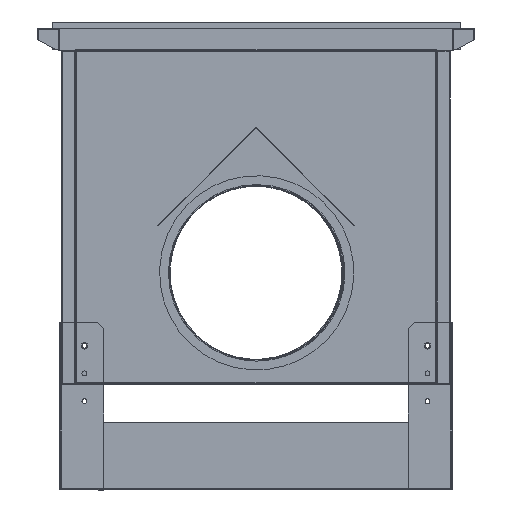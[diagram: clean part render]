
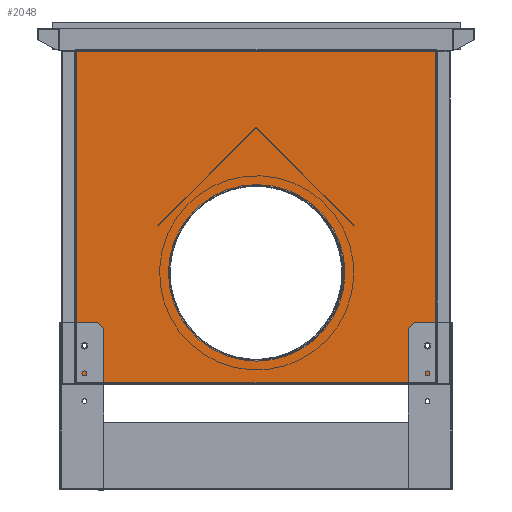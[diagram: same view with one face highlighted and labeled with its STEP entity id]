
A CAD part, left-side view. The second image highlights one B-rep face of the part: STEP entity #2048.
In plain terms, the highlighted planar face has unit normal (-1, 0, 0) as drawn and (0, 1, 0) by its records, which use the part's own axes.
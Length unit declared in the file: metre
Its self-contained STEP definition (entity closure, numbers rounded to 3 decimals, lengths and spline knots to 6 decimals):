
#2048=ADVANCED_FACE('0:205',(#4277,#4278,#4279,#4280),#4281,.T.);
#4277=FACE_BOUND('',#7263,.T.);
#4278=FACE_BOUND('',#7264,.T.);
#4279=FACE_BOUND('',#7265,.T.);
#4280=FACE_OUTER_BOUND('',#7266,.T.);
#4281=PLANE('',#7267);
#7263=EDGE_LOOP('',(#10480,#10481,#10482,#10483,#10484,#10485));
#7264=EDGE_LOOP('',(#10486,#10487,#10488,#10489,#10490,#10491));
#7265=EDGE_LOOP('',(#10492,#10493));
#7266=EDGE_LOOP('',(#10494,#10495,#10496,#10497));
#7267=AXIS2_PLACEMENT_3D('',#10498,#10499,#10500);
#10480=ORIENTED_EDGE('',*,*,#19297,.T.);
#10481=ORIENTED_EDGE('',*,*,#19302,.T.);
#10482=ORIENTED_EDGE('',*,*,#19306,.T.);
#10483=ORIENTED_EDGE('',*,*,#19310,.T.);
#10484=ORIENTED_EDGE('',*,*,#19314,.T.);
#10485=ORIENTED_EDGE('',*,*,#19318,.T.);
#10486=ORIENTED_EDGE('',*,*,#19321,.T.);
#10487=ORIENTED_EDGE('',*,*,#19326,.T.);
#10488=ORIENTED_EDGE('',*,*,#19330,.T.);
#10489=ORIENTED_EDGE('',*,*,#19334,.T.);
#10490=ORIENTED_EDGE('',*,*,#19338,.T.);
#10491=ORIENTED_EDGE('',*,*,#19342,.T.);
#10492=ORIENTED_EDGE('',*,*,#19379,.T.);
#10493=ORIENTED_EDGE('',*,*,#19238,.T.);
#10494=ORIENTED_EDGE('',*,*,#19430,.F.);
#10495=ORIENTED_EDGE('',*,*,#19431,.F.);
#10496=ORIENTED_EDGE('',*,*,#19432,.F.);
#10497=ORIENTED_EDGE('',*,*,#19420,.F.);
#10498=CARTESIAN_POINT('',(0.32375,0.00125,0.29875));
#10499=DIRECTION('',(0.0,1.0,0.0));
#10500=DIRECTION('',(1.0,0.0,-0.0));
#19238=EDGE_CURVE('',#22944,#22941,#22945,.T.);
#19297=EDGE_CURVE('0:38',#23049,#23050,#23051,.T.);
#19302=EDGE_CURVE('0:303',#23050,#23058,#23059,.T.);
#19306=EDGE_CURVE('0:312',#23058,#23064,#23065,.T.);
#19310=EDGE_CURVE('0:321',#23064,#23070,#23071,.T.);
#19314=EDGE_CURVE('0:330',#23070,#23076,#23077,.T.);
#19318=EDGE_CURVE('0:339',#23076,#23049,#23082,.T.);
#19321=EDGE_CURVE('0:345',#23085,#23086,#23087,.T.);
#19326=EDGE_CURVE('0:357',#23086,#23094,#23095,.T.);
#19330=EDGE_CURVE('0:366',#23094,#23100,#23101,.T.);
#19334=EDGE_CURVE('0:375',#23100,#23106,#23107,.T.);
#19338=EDGE_CURVE('0:384',#23106,#23112,#23113,.T.);
#19342=EDGE_CURVE('0:393',#23112,#23085,#23118,.T.);
#19379=EDGE_CURVE('0:465',#22941,#22944,#23155,.T.);
#19420=EDGE_CURVE('0:558',#23208,#23212,#23216,.T.);
#19430=EDGE_CURVE('0:579',#23230,#23208,#23231,.T.);
#19431=EDGE_CURVE('0:582',#23232,#23230,#23233,.T.);
#19432=EDGE_CURVE('0:585',#23212,#23232,#23234,.T.);
#22941=VERTEX_POINT('',#28481);
#22944=VERTEX_POINT('',#28485);
#22945=CIRCLE('',#28486,0.159);
#23049=VERTEX_POINT('',#28613);
#23050=VERTEX_POINT('',#28614);
#23051=LINE('',#28615,#28616);
#23058=VERTEX_POINT('',#28626);
#23059=LINE('',#28627,#28628);
#23064=VERTEX_POINT('',#28635);
#23065=LINE('',#28636,#28637);
#23070=VERTEX_POINT('',#28644);
#23071=LINE('',#28645,#28646);
#23076=VERTEX_POINT('',#28653);
#23077=LINE('',#28654,#28655);
#23082=LINE('',#28662,#28663);
#23085=VERTEX_POINT('',#28667);
#23086=VERTEX_POINT('',#28668);
#23087=LINE('',#28669,#28670);
#23094=VERTEX_POINT('',#28680);
#23095=LINE('',#28681,#28682);
#23100=VERTEX_POINT('',#28689);
#23101=LINE('',#28690,#28691);
#23106=VERTEX_POINT('',#28698);
#23107=LINE('',#28699,#28700);
#23112=VERTEX_POINT('',#28707);
#23113=LINE('',#28708,#28709);
#23118=LINE('',#28716,#28717);
#23155=CIRCLE('',#28755,0.159);
#23208=VERTEX_POINT('',#28827);
#23212=VERTEX_POINT('',#28832);
#23216=LINE('',#28837,#28838);
#23230=VERTEX_POINT('',#28858);
#23231=LINE('',#28859,#28860);
#23232=VERTEX_POINT('',#28861);
#23233=LINE('',#28862,#28863);
#23234=LINE('',#28864,#28865);
#28481=CARTESIAN_POINT('',(0.484,0.00125,0.39875));
#28485=CARTESIAN_POINT('',(0.166,0.00125,0.39875));
#28486=AXIS2_PLACEMENT_3D('',#36057,#36058,#36059);
#28613=CARTESIAN_POINT('',(0.62725,0.00125,0.533175));
#28614=CARTESIAN_POINT('',(0.62725,0.00125,0.526825));
#28615=CARTESIAN_POINT('',(0.62725,0.00125,0.414375));
#28616=VECTOR('',#36152,0.01);
#28626=CARTESIAN_POINT('',(0.63275,0.00125,0.523649));
#28627=CARTESIAN_POINT('',(0.564192,0.00125,0.563231));
#28628=VECTOR('',#36156,0.01);
#28635=CARTESIAN_POINT('',(0.63825,0.00125,0.526825));
#28636=CARTESIAN_POINT('',(0.469558,0.00125,0.42943));
#28637=VECTOR('',#36159,0.01);
#28644=CARTESIAN_POINT('',(0.63825,0.00125,0.533175));
#28645=CARTESIAN_POINT('',(0.63825,0.00125,0.414375));
#28646=VECTOR('',#36162,0.01);
#28653=CARTESIAN_POINT('',(0.63275,0.00125,0.536351));
#28654=CARTESIAN_POINT('',(0.569692,0.00125,0.572757));
#28655=VECTOR('',#36165,0.01);
#28662=CARTESIAN_POINT('',(0.464058,0.00125,0.438956));
#28663=VECTOR('',#36168,0.01);
#28667=CARTESIAN_POINT('',(0.02025,0.00125,0.526825));
#28668=CARTESIAN_POINT('',(0.02025,0.00125,0.533175));
#28669=CARTESIAN_POINT('',(0.02025,0.00125,0.414375));
#28670=VECTOR('',#36170,0.01);
#28680=CARTESIAN_POINT('',(0.01475,0.00125,0.536351));
#28681=CARTESIAN_POINT('',(0.183442,0.00125,0.438956));
#28682=VECTOR('',#36174,0.01);
#28689=CARTESIAN_POINT('',(0.00925,0.00125,0.533175));
#28690=CARTESIAN_POINT('',(0.077808,0.00125,0.572757));
#28691=VECTOR('',#36177,0.01);
#28698=CARTESIAN_POINT('',(0.00925,0.00125,0.526825));
#28699=CARTESIAN_POINT('',(0.00925,0.00125,0.414375));
#28700=VECTOR('',#36180,0.01);
#28707=CARTESIAN_POINT('',(0.01475,0.00125,0.523649));
#28708=CARTESIAN_POINT('',(0.177942,0.00125,0.42943));
#28709=VECTOR('',#36183,0.01);
#28716=CARTESIAN_POINT('',(0.083308,0.00125,0.563231));
#28717=VECTOR('',#36186,0.01);
#28755=AXIS2_PLACEMENT_3D('',#36257,#36258,#36259);
#28827=CARTESIAN_POINT('',(0.000625,0.00125,0.596875));
#28832=CARTESIAN_POINT('',(0.000625,0.00125,0.000625));
#28837=CARTESIAN_POINT('',(0.000625,0.00125,0.29875));
#28838=VECTOR('',#36305,0.01);
#28858=CARTESIAN_POINT('',(0.646875,0.00125,0.596875));
#28859=CARTESIAN_POINT('',(0.32375,0.00125,0.596875));
#28860=VECTOR('',#36312,0.01);
#28861=CARTESIAN_POINT('',(0.646875,0.00125,0.000625));
#28862=CARTESIAN_POINT('',(0.646875,0.00125,0.29875));
#28863=VECTOR('',#36313,0.01);
#28864=CARTESIAN_POINT('',(0.32375,0.00125,0.000625));
#28865=VECTOR('',#36314,0.01);
#36057=CARTESIAN_POINT('',(0.325,0.00125,0.39875));
#36058=DIRECTION('',(0.0,-1.0,0.0));
#36059=DIRECTION('',(1.0,0.0,0.0));
#36152=DIRECTION('',(0.0,0.0,-1.0));
#36156=DIRECTION('',(0.866,0.0,-0.5));
#36159=DIRECTION('',(0.866,0.0,0.5));
#36162=DIRECTION('',(0.0,0.0,1.0));
#36165=DIRECTION('',(-0.866,0.0,0.5));
#36168=DIRECTION('',(-0.866,0.0,-0.5));
#36170=DIRECTION('',(0.0,0.0,1.0));
#36174=DIRECTION('',(-0.866,0.0,0.5));
#36177=DIRECTION('',(-0.866,0.0,-0.5));
#36180=DIRECTION('',(0.,0.0,-1.0));
#36183=DIRECTION('',(0.866,0.0,-0.5));
#36186=DIRECTION('',(0.866,0.0,0.5));
#36257=CARTESIAN_POINT('',(0.325,0.00125,0.39875));
#36258=DIRECTION('',(0.0,-1.0,0.0));
#36259=DIRECTION('',(1.0,0.0,0.0));
#36305=DIRECTION('',(0.0,0.0,-1.0));
#36312=DIRECTION('',(-1.0,0.0,0.0));
#36313=DIRECTION('',(0.0,0.0,1.0));
#36314=DIRECTION('',(1.0,0.0,0.0));
